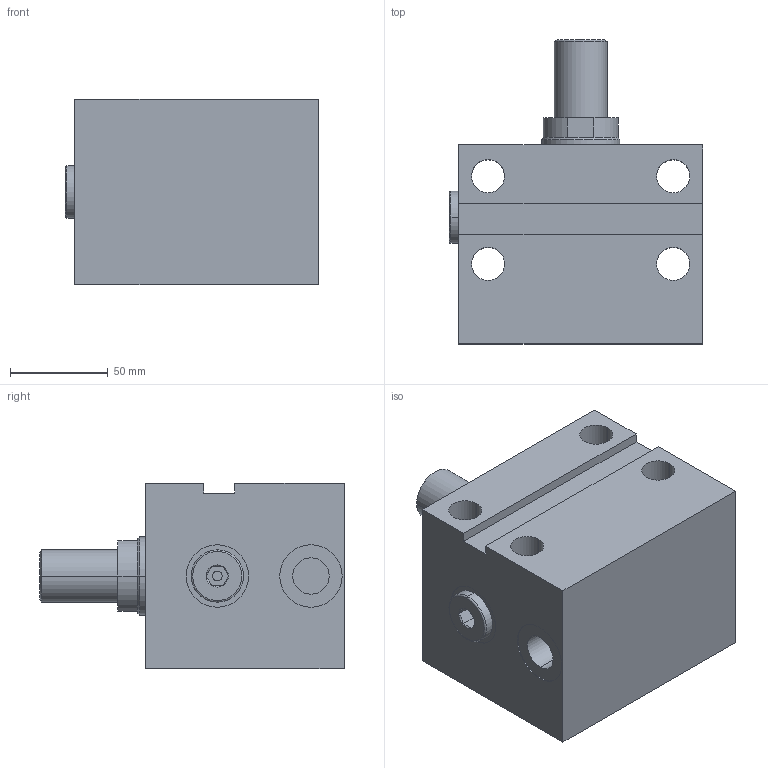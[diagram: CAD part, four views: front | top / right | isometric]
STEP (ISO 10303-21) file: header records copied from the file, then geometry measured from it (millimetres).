
FILE_DESCRIPTION (( 'STEP AP203' ), '1' );
FILE_NAME ('GERMA_Blockzylinder_651-063-012-A.STEP', '2023-08-26T17:07:37', ( '' ), ( '' ), 'SwSTEP 2.0', 'SolidWorks 2016', '' );
FILE_SCHEMA (( 'CONFIG_CONTROL_DESIGN' ));
Length unit declared in the file: millimetre
Products named in the file (3): GERMA_Blockzylinder_651-063-012-A; Kolben 60x-063_Kolben DU.63-Hub30-AG; GH-600-063-ew_GH-651-063-012
Assembly tree (2 placements, depth 2):
  GERMA_Blockzylinder_651-063-012-A
    GH-600-063-ew_GH-651-063-012
    Kolben 60x-063_Kolben DU.63-Hub30-AG
Bounding box: 129.8 x 156 x 95 mm (x, y, z)
Volume: 1124477.4 mm3; surface area: 132639.5 mm2
Topology: 2 solids, 2 shells, 94 faces, 214 edges, 135 vertices
Faces by surface type: cylinder 39, plane 35, cone 18, torus 2
Entity records: 3012 total; most frequent: CARTESIAN_POINT 514, DIRECTION 501, ORIENTED_EDGE 420, EDGE_CURVE 210, AXIS2_PLACEMENT_3D 198, VERTEX_POINT 135, EDGE_LOOP 117, VECTOR 105
